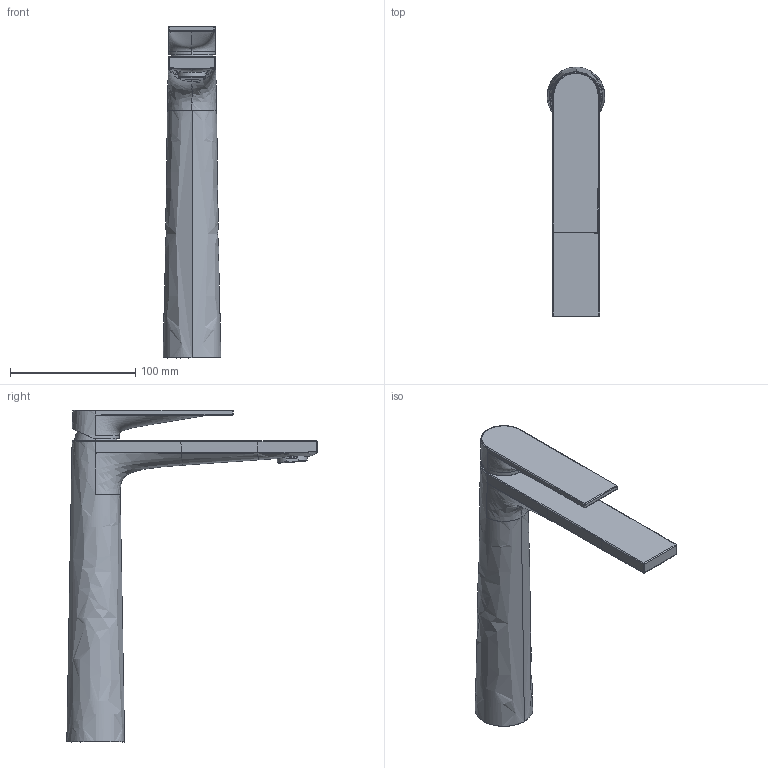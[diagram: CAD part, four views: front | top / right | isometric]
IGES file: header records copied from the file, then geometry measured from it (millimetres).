
Global section: file name: d:\users\matthias.isele\Desktop\planungsdaten_erstellen\Armaturen\Tulum\TU10400020\3D\TU10400020.igs; native system: Rhinoceros ( Sep 13 2016 ); preprocessor: Trout Lake IGES 012 Sep 13 2016; date: 220331.112425; units: millimetre
Bounding box: 46 x 199.5 x 264.58 mm (x, y, z)
Surface area: 64318.4 mm2 (no closed solid volume)
Topology: 0 solids, 0 shells, 137 faces, 1006 edges, 996 vertices
Faces by surface type: bspline 137
